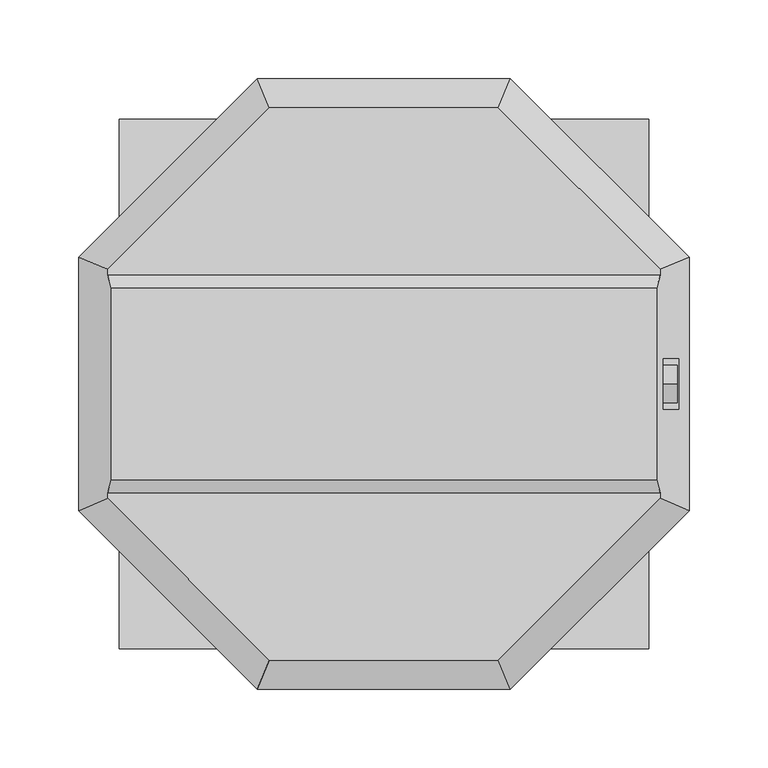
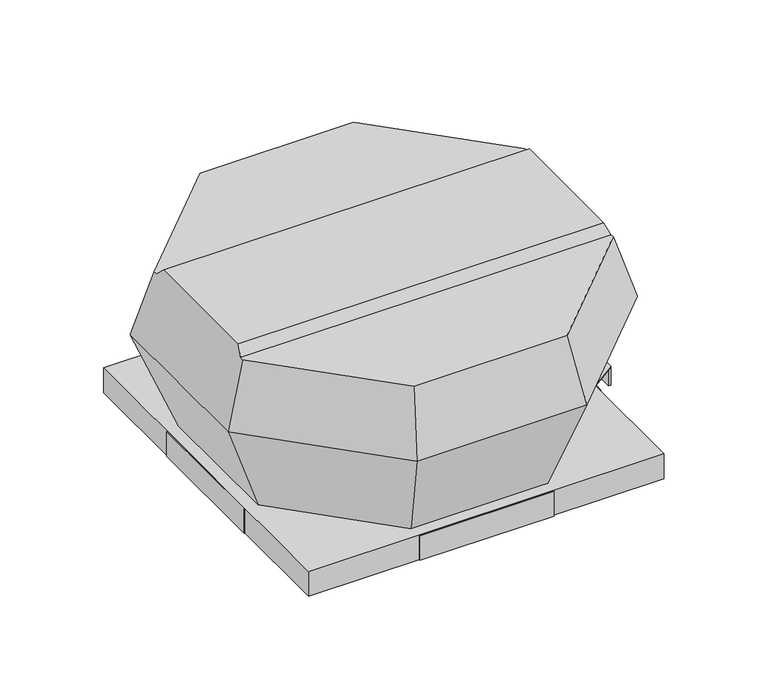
"""IFC4 building model written with IfcOpenShell, lengths in millimetres: unitary equipment geometry, VE-Wentylator-ParaForma-Harmann-VIVER_PS-Wywiewny : 4-190/250S."""

import ifcopenshell
import ifcopenshell.guid

model = None  # the IFC model being written
_history = None  # IfcOwnerHistory: only IFC2X3 demands one
_inside = {}  # id of a spatial element -> (the spatial element, [elements in it])
_under = {}  # id of a project, library or spatial element -> (it, [spatial elements below it])
_declared = {}  # id of a project -> (the project, [libraries it declares])
_typed = {}  # id of a type object -> (the type object, [elements of that type])
_made_of = {}  # id of a material, layer set ... -> (it, [elements and type objects made of it])


def new_model(schema):
    """Start an empty IFC model of exactly this schema.

    Asked for "IFC4X3", IfcOpenShell would pick the latest addendum, in which some entities
    have other attributes; the version numbers below select the first issue.
    IFC2X3 requires an IfcOwnerHistory on every rooted entity: one is made here for all.
    """
    global model, _history
    if schema == "IFC4X3":
        model = ifcopenshell.file(schema_version=(4, 3, 0, 0))
    else:
        model = ifcopenshell.file(schema=schema)
    _inside.clear()
    _under.clear()
    _declared.clear()
    _typed.clear()
    _made_of.clear()
    _history = None
    if model.schema == "IFC2X3":
        org = make("IfcOrganization", Name="unknown")
        user = make(
            "IfcPersonAndOrganization",
            ThePerson=make("IfcPerson", FamilyName="unknown"),
            TheOrganization=org,
        )
        app = make(
            "IfcApplication",
            ApplicationDeveloper=org,
            Version="unknown",
            ApplicationFullName="unknown",
            ApplicationIdentifier="unknown",
        )
        _history = make(
            "IfcOwnerHistory",
            OwningUser=user,
            OwningApplication=app,
            ChangeAction="ADDED",
            CreationDate=0,
        )
    return model


def make(cls, **values):
    """One entity of the class cls with the attributes given. An attribute that is None is left unset."""
    return model.create_entity(
        cls, **{name: value for name, value in values.items() if value is not None}
    )


def rooted(cls, **values):
    """An entity with a GlobalId (a new one), such as an element, a storey or a relation."""
    return make(cls, GlobalId=ifcopenshell.guid.new(), OwnerHistory=_history, **values)


def si_unit(unit_type, name, prefix=None):
    """IfcSIUnit, for example si_unit("LENGTHUNIT", "METRE", prefix="MILLI")."""
    return make("IfcSIUnit", UnitType=unit_type, Prefix=prefix, Name=name)


def assignment(units):
    """IfcUnitAssignment: the units of a project."""
    return None if units is None else make("IfcUnitAssignment", Units=units)


def point(xyz):
    """IfcCartesianPoint."""
    return None if xyz is None else make("IfcCartesianPoint", Coordinates=xyz)


def direction(xyz):
    """IfcDirection."""
    return None if xyz is None else make("IfcDirection", DirectionRatios=xyz)


def frame(location, z_axis=None, x_axis=None):
    """IfcAxis2Placement3D, a coordinate frame: its origin and axes. An axis left out is left unset."""
    return make(
        "IfcAxis2Placement3D",
        Location=point(location),
        Axis=direction(z_axis),
        RefDirection=direction(x_axis),
    )


def frame_2d(location, x_axis=None):
    """IfcAxis2Placement2D, a coordinate frame in the plane: its origin and x axis."""
    return make(
        "IfcAxis2Placement2D", Location=point(location), RefDirection=direction(x_axis)
    )


def origin():
    """The frame at (0, 0, 0) with its axes left unset."""
    return frame((0.0, 0.0, 0.0))


def place(relative_to, where):
    """IfcLocalPlacement: puts the frame where relative to a parent placement (None: the world)."""
    return make(
        "IfcLocalPlacement", PlacementRelTo=relative_to, RelativePlacement=where
    )


def context(
    kind, dimensions, precision=None, world=None, true_north=None, identifier=None
):
    """IfcGeometricRepresentationContext, for example the 3D "Model" context."""
    return make(
        "IfcGeometricRepresentationContext",
        ContextIdentifier=identifier,
        ContextType=kind,
        CoordinateSpaceDimension=dimensions,
        Precision=precision,
        WorldCoordinateSystem=world,
        TrueNorth=true_north,
    )


def project(units=None, contexts=None):
    """IfcProject with its units and contexts."""
    return rooted(
        "IfcProject",
        Name="project",
        RepresentationContexts=contexts,
        UnitsInContext=assignment(units),
    )


def spatial(cls, under=None, at=None, **own):
    """A site, building, storey or space (cls), placed at a placement, below another one or the project."""
    s = rooted(cls, ObjectPlacement=at, **own)
    if under is not None:
        _under.setdefault(under.id(), (under, []))[1].append(s)
    return s


def circle_curve(where, radius):
    """IfcCircle in the frame where."""
    return make("IfcCircle", Position=where, Radius=radius)


def trimmed(basis, trim1, trim2, sense, master):
    """IfcTrimmedCurve: the piece of a basis curve between two trims."""
    return make(
        "IfcTrimmedCurve",
        BasisCurve=basis,
        Trim1=trim1,
        Trim2=trim2,
        SenseAgreement=sense,
        MasterRepresentation=master,
    )


def segment(curve, same_sense, transition):
    """IfcCompositeCurveSegment."""
    return make(
        "IfcCompositeCurveSegment",
        Transition=transition,
        SameSense=same_sense,
        ParentCurve=curve,
    )


def composite_curve(segments, self_intersect=None):
    """IfcCompositeCurve: segments joined end to end."""
    return make("IfcCompositeCurve", Segments=segments, SelfIntersect=self_intersect)


def outline(outer, holes=None, kind="AREA"):
    """IfcArbitraryClosedProfileDef: a profile drawn as a closed curve; with holes, ...WithVoids."""
    if holes is None:
        return make("IfcArbitraryClosedProfileDef", ProfileType=kind, OuterCurve=outer)
    return make(
        "IfcArbitraryProfileDefWithVoids",
        ProfileType=kind,
        OuterCurve=outer,
        InnerCurves=holes,
    )


def extrude(swept, where, along, depth):
    """IfcExtrudedAreaSolid: the profile swept, set in the frame where, extruded along a direction by depth."""
    return make(
        "IfcExtrudedAreaSolid",
        SweptArea=swept,
        Position=where,
        ExtrudedDirection=direction(along),
        Depth=depth,
    )


def faces_of(points, faces, orient=None, outer=None):
    """IfcFace entities. A face is a list of loops; a loop is a list of indices into points, from 0.

    orient and outer hold one flag for each loop. By default every Orientation is true, the
    first loop of a face is its IfcFaceOuterBound and the others are IfcFaceBound.
    """
    made = []
    for i, loops in enumerate(faces):
        bounds = []
        for j, loop in enumerate(loops):
            is_outer = j == 0 if outer is None else outer[i][j]
            bounds.append(
                make(
                    "IfcFaceOuterBound" if is_outer else "IfcFaceBound",
                    Bound=make("IfcPolyLoop", Polygon=[points[k] for k in loop]),
                    Orientation=True if orient is None else orient[i][j],
                )
            )
        made.append(make("IfcFace", Bounds=bounds))
    return made


def faceted_brep(points, faces, orient=None, outer=None, voids=None):
    """IfcFacetedBrep: a solid bounded by flat faces; with voids (closed shells), ...WithVoids."""
    shared = [point(p) for p in points]
    hull = make("IfcClosedShell", CfsFaces=faces_of(shared, faces, orient, outer))
    if voids is None:
        return make("IfcFacetedBrep", Outer=hull)
    return make(
        "IfcFacetedBrepWithVoids",
        Outer=hull,
        Voids=[
            make(cls, CfsFaces=faces_of(shared, fs, o, b)) for cls, fs, o, b in voids
        ],
    )


def shape(context_of_items, identifier, shape_type, items):
    """IfcShapeRepresentation: the items that make up one representation, for example the "Body"."""
    return make(
        "IfcShapeRepresentation",
        ContextOfItems=context_of_items,
        RepresentationIdentifier=identifier,
        RepresentationType=shape_type,
        Items=items,
    )


def source(mapping_origin, context_of_items, identifier, shape_type, items):
    """IfcRepresentationMap: a shape defined once, which mapped items show again and again."""
    return make(
        "IfcRepresentationMap",
        MappingOrigin=mapping_origin,
        MappedRepresentation=shape(context_of_items, identifier, shape_type, items),
    )


def transform(
    local_origin,
    x_axis=None,
    y_axis=None,
    z_axis=None,
    scale=None,
    scale2=None,
    scale3=None,
    uniform=True,
):
    """IfcCartesianTransformationOperator3D, or its non-uniform kind. x_axis, y_axis, z_axis: its Axis1, 2, 3."""
    if uniform:
        return make(
            "IfcCartesianTransformationOperator3D",
            Axis1=direction(x_axis),
            Axis2=direction(y_axis),
            LocalOrigin=point(local_origin),
            Scale=scale,
            Axis3=direction(z_axis),
        )
    return make(
        "IfcCartesianTransformationOperator3DnonUniform",
        Axis1=direction(x_axis),
        Axis2=direction(y_axis),
        LocalOrigin=point(local_origin),
        Scale=scale,
        Axis3=direction(z_axis),
        Scale2=scale2,
        Scale3=scale3,
    )


def mapped(mapping_source, mapping_target):
    """IfcMappedItem: shows the shape of a source again, moved by a transform."""
    return make(
        "IfcMappedItem", MappingSource=mapping_source, MappingTarget=mapping_target
    )


def made_of(thing, what):
    """Note that an element or type object is made of a material, layer set ...; save() writes the relation."""
    if what is not None:
        _made_of.setdefault(what.id(), (what, []))[1].append(thing)
    return thing


def element(
    cls,
    number,
    at=None,
    inside=None,
    cuts=None,
    type_object=None,
    material=None,
    context=None,
    identifier="Body",
    shape_type=None,
    held_by="IfcProductDefinitionShape",
    body=None,
    shapes=None,
    **own,
):
    """One element of the class cls, such as IfcWall. Its Tag is "e" and its number.

    at: its placement. inside: the storey or other place that contains it. cuts: it is an
    opening in that element (IfcRelVoidsElement). A single representation is given by context,
    identifier, shape_type and body (its items); several are given by shapes. held_by: the class
    of the entity that holds the representations. save() writes the other relations.
    """
    e = rooted(cls, Tag="e%d" % number, ObjectPlacement=at, **own)
    if body is not None:
        shapes = [shape(context, identifier, shape_type, body)]
    if shapes is not None:
        e.Representation = make(held_by, Representations=shapes)
    if inside is not None:
        _inside.setdefault(inside.id(), (inside, []))[1].append(e)
    if cuts is not None:
        rooted(
            "IfcRelVoidsElement", RelatingBuildingElement=cuts, RelatedOpeningElement=e
        )
    if type_object is not None:
        _typed.setdefault(type_object.id(), (type_object, []))[1].append(e)
    return made_of(e, material)


def aggregate(whole, parts):
    """IfcRelAggregates: a whole, such as a stair, and the parts it consists of."""
    return rooted("IfcRelAggregates", RelatingObject=whole, RelatedObjects=parts)


def save(model, path):
    """Write the relations noted so far, then the file.

    IfcRelAggregates (storeys below a building ...), IfcRelContainedInSpatialStructure (elements
    in a storey), IfcRelDefinesByType, IfcRelAssociatesMaterial and IfcRelDeclares: one each for
    every whole, place, type object, material and project.
    """
    for whole, parts in _under.values():
        aggregate(whole, parts)
    for where, things in _inside.values():
        rooted(
            "IfcRelContainedInSpatialStructure",
            RelatedElements=things,
            RelatingStructure=where,
        )
    for kind, things in _typed.values():
        rooted("IfcRelDefinesByType", RelatedObjects=things, RelatingType=kind)
    for what, things in _made_of.values():
        rooted("IfcRelAssociatesMaterial", RelatedObjects=things, RelatingMaterial=what)
    for by, libraries in _declared.values():
        rooted("IfcRelDeclares", RelatingContext=by, RelatedDefinitions=libraries)
    model.write(path)


def unitary_equipment_fd4ee621(model_context):
    return source(origin(), model_context, "Body", "SolidModel", [
        faceted_brep([(173.5597397, -61.0, 166.2), (173.5597397, 61.0, 166.2), (-173.5597397, 61.0, 166.2), (-173.5597397, -61.0, 166.2), (175.9961687, 69.1, 158.1), (-175.9961687, 69.1, 158.1), (175.9961687, -69.1, 158.1), (-175.9961687, -69.1, 158.1), (72.9, -175.9961687, 158.1), (175.9961687, -72.9, 158.1), (-175.9961687, -72.9, 158.1), (-72.9, -175.9961687, 158.1), (175.9961687, 72.9, 158.1), (72.9, 175.9961687, 158.1), (-72.9, 175.9961687, 158.1), (-175.9961687, 72.9, 158.1), (80.55, -194.4649024, 96.7), (194.4649024, -80.55, 96.7), (194.4649024, 80.55, 96.7), (187.7872821, -16.0, 118.9), (177.8310103, -16.0, 152.0), (177.8310103, 16.0, 152.0), (187.7872821, 16.0, 118.9), (80.55, 194.4649024, 96.7), (-80.55, 194.4649024, 96.7), (-194.4649024, 80.55, 96.7), (-194.4649024, -80.55, 96.7), (-80.55, -194.4649024, 96.7), (176.8, -16.0, 118.9), (176.8, 16.0, 118.9), (176.8, 16.0, 152.0), (176.8, -16.0, 152.0), (65.1, -157.1653029, 1.0), (-65.1, -157.1653029, 1.0), (-157.1653029, -65.1, 1.0), (-157.1653029, 65.1, 1.0), (-65.1, 157.1653029, 1.0), (65.1, 157.1653029, 1.0), (157.1653029, 65.1, 1.0), (157.1653029, -65.1, 1.0)], [[[0, 1, 2, 3]], [[1, 4, 5, 2]], [[6, 0, 3, 7]], [[8, 9, 6, 7, 10, 11]], [[12, 13, 14, 15, 5, 4]], [[9, 8, 16, 17]], [[9, 17, 18, 12, 4, 1, 0, 6], [19, 20, 21, 22]], [[13, 12, 18, 23]], [[14, 13, 23, 24]], [[15, 14, 24, 25]], [[15, 25, 26, 10, 7, 3, 2, 5]], [[11, 10, 26, 27]], [[8, 11, 27, 16]], [[28, 29, 30, 31]], [[28, 31, 20, 19]], [[31, 30, 21, 20]], [[30, 29, 22, 21]], [[29, 28, 19, 22]], [[32, 33, 34, 35, 36, 37, 38, 39]], [[32, 39, 17, 16]], [[39, 38, 18, 17]], [[38, 37, 23, 18]], [[37, 36, 24, 23]], [[36, 35, 25, 24]], [[35, 34, 26, 25]], [[34, 33, 27, 26]], [[33, 32, 16, 27]]]),
        faceted_brep([(167.6, 167.6, -24.0), (167.6, 167.6, 0.0), (-167.6, 167.6, 0.0), (-167.6, 167.6, -24.0), (168.6, 168.6, 1.0), (168.6, 168.6, -24.0), (-168.6, 168.6, -24.0), (-168.6, 168.6, 1.0), (-167.6, -167.6, 0.0), (-167.6, -167.6, -24.0), (-168.6, -168.6, -24.0), (-168.6, -168.6, 1.0), (167.6, -167.6, 0.0), (167.6, -167.6, -24.0), (168.6, -168.6, -24.0), (168.6, -168.6, 1.0)], [[[0, 1, 2, 3]], [[4, 5, 6, 7]], [[3, 2, 8, 9]], [[7, 6, 10, 11]], [[9, 8, 12, 13]], [[11, 10, 14, 15]], [[13, 12, 1, 0]], [[5, 14, 10, 6], [3, 9, 13, 0]], [[15, 14, 5, 4]], [[7, 11, 15, 4]], [[1, 12, 8, 2]]]),
        extrude(outline(composite_curve([segment(trimmed(circle_curve(frame_2d((0.0, 135.4)), 12.0), [point((0.0, 147.4))], [point((0.0, 123.4))], False, "CARTESIAN"), True, "CONTINUOUS"), segment(trimmed(circle_curve(frame_2d((0.0, 135.4)), 12.0), [point((0.0, 123.4))], [point((0.0, 147.4))], False, "CARTESIAN"), True, "CONTINUOUS")], self_intersect=False)), frame((176.8, 0.0, 0.0), z_axis=(1.0, 0.0, 0.0), x_axis=(0.0, 1.0, 0.0)), (0.0, 0.0, 1.0), 10.0),
        faceted_brep([(-168.6, -63.7, -24.0), (-169.6, -63.7, -24.0), (-169.6, 63.7, -24.0), (-168.6, 63.7, -24.0), (-168.6, -63.7, 1.0), (-168.6, 63.7, 1.0), (-169.6, 63.7, 1.0), (-169.6, -63.7, 1.0)], [[[0, 1, 2, 3]], [[4, 5, 6, 7]], [[1, 0, 4, 7]], [[2, 1, 7, 6]], [[3, 2, 6, 5]], [[0, 3, 5, 4]]]),
        faceted_brep([(169.6, -63.7, -24.0), (168.6, -63.7, -24.0), (168.6, 63.7, -24.0), (169.6, 63.7, -24.0), (169.6, 63.7, 1.0), (168.6, 63.7, 1.0), (168.6, -63.7, 1.0), (169.6, -63.7, 1.0), (169.6, -54.8, 1.0), (193.6, -38.0, 1.0), (193.6, 38.0, 1.0), (169.6, 54.8, 1.0), (169.6, 54.8, 0.0), (169.6, -54.8, 0.0), (193.6, 38.0, 0.0), (191.5, 38.0, 0.0), (191.5, -38.0, 0.0), (193.6, -38.0, 0.0), (193.6, -38.0, -18.0), (193.6, 38.0, -18.0), (191.5, -38.0, -18.0), (191.5, 38.0, -18.0)], [[[0, 1, 2, 3]], [[4, 5, 6, 7, 8, 9, 10, 11]], [[1, 0, 7, 6]], [[2, 1, 6, 5]], [[3, 2, 5, 4]], [[0, 3, 4, 11, 12, 13, 8, 7]], [[12, 14, 15, 16, 17, 13]], [[14, 12, 11, 10]], [[10, 9, 17, 18, 19, 14]], [[13, 17, 9, 8]], [[20, 16, 15, 21]], [[16, 20, 18, 17]], [[21, 15, 14, 19]], [[20, 21, 19, 18]]]),
        faceted_brep([(63.7, 168.6, -24.0), (-63.7, 168.6, -24.0), (-63.7, 169.6, -24.0), (63.7, 169.6, -24.0), (63.7, 168.6, 1.0), (63.7, 169.6, 1.0), (-63.7, 169.6, 1.0), (-63.7, 168.6, 1.0)], [[[0, 1, 2, 3]], [[4, 5, 6, 7]], [[1, 0, 4, 7]], [[2, 1, 7, 6]], [[3, 2, 6, 5]], [[0, 3, 5, 4]]]),
        faceted_brep([(63.7, -169.6, -24.0), (-63.7, -169.6, -24.0), (-63.7, -168.6, -24.0), (63.7, -168.6, -24.0), (63.7, -169.6, 1.0), (63.7, -168.6, 1.0), (-63.7, -168.6, 1.0), (-63.7, -169.6, 1.0)], [[[0, 1, 2, 3]], [[4, 5, 6, 7]], [[1, 0, 4, 7]], [[2, 1, 7, 6]], [[3, 2, 6, 5]], [[0, 3, 5, 4]]]),
    ])


if __name__ == "__main__":
    model = new_model("IFC4")
    model_context = context("Model", 3, world=origin())
    ifc_project = project(units=[si_unit("LENGTHUNIT", "METRE", prefix="MILLI")], contexts=[model_context])
    site = spatial("IfcSite", under=ifc_project)
    building = spatial("IfcBuilding", under=site)
    placement = place(None, origin())
    unitary_equipment_shape = unitary_equipment_fd4ee621(model_context)
    element("IfcUnitaryEquipment", 1, ObjectType="VE-Wentylator-ParaForma-Harmann-VIVER_PS-Wywiewny : 4-190/250S", at=placement, inside=building, context=model_context, shape_type="MappedRepresentation", body=[
        mapped(unitary_equipment_shape, transform((0.0, 0.0, 0.0), x_axis=(1.0, 0.0, 0.0), y_axis=(0.0, 1.0, 0.0), z_axis=(0.0, 0.0, 1.0))),
    ])
    save(model, "model.ifc")
